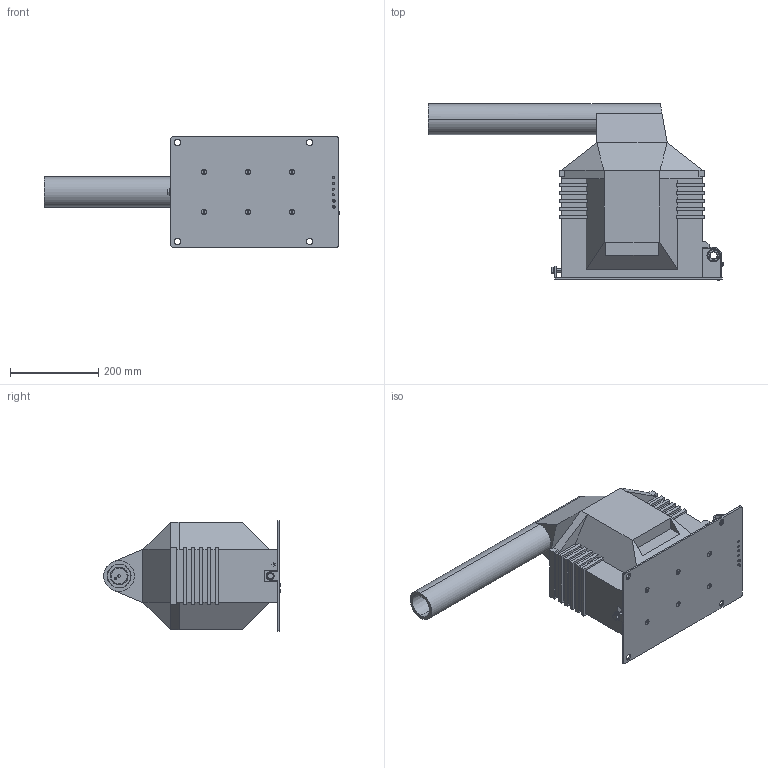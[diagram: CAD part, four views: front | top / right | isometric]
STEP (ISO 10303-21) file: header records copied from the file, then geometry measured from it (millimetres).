
FILE_DESCRIPTION (( 'STEP AP203' ), '1' );
FILE_NAME ('VTS_36_P_22.STEP', '2014-10-14T07:43:08', ( '' ), ( '' ), 'SwSTEP 2.0', 'SolidWorks 2014', '' );
FILE_SCHEMA (( 'CONFIG_CONTROL_DESIGN' ));
Products named in the file (1): VTS_36_P_22
Bounding box: 670.91 x 400.9 x 250 mm (x, y, z)
Volume: 18699975.8 mm3; surface area: 839456.5 mm2
Topology: 13 solids, 16 shells, 1569 faces, 4012 edges, 2527 vertices
Faces by surface type: plane 897, cylinder 441, bspline 82, cone 57, torus 46, sphere 46
Entity records: 55321 total; most frequent: CARTESIAN_POINT 17488, ORIENTED_EDGE 7888, DIRECTION 7746, EDGE_CURVE 3944, AXIS2_PLACEMENT_3D 2632, VERTEX_POINT 2511, VECTOR 2482, LINE 2482
